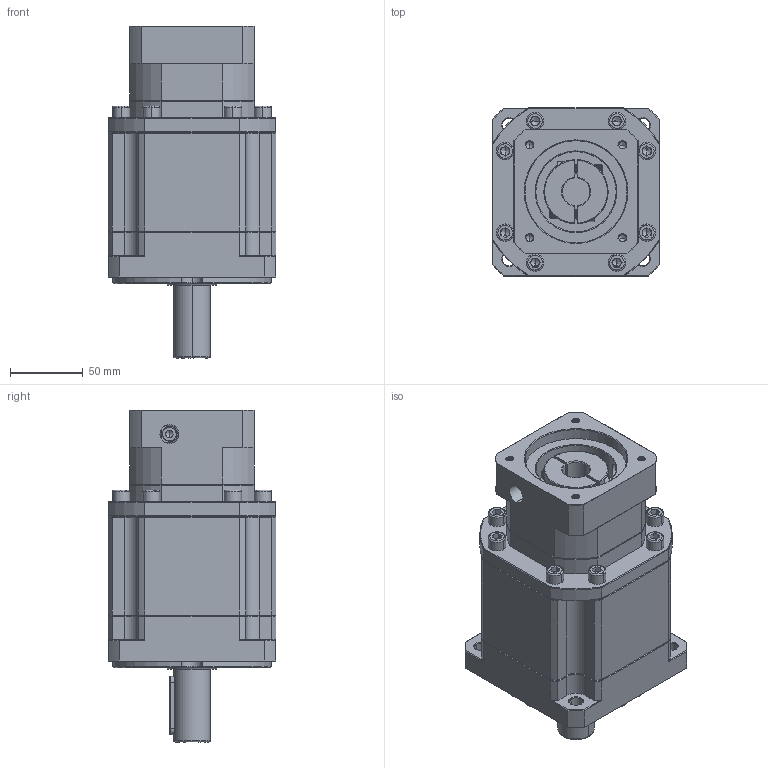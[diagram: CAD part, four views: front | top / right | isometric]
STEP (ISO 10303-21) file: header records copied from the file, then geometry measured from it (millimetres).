
FILE_DESCRIPTION (( 'STEP AP214' ), '1' );
FILE_NAME ('ZB115A-D25-L3-19-70-90-M6.step', '2023-03-03T09:53:41', ( '' ), ( 'Microsoft' ), 'SwSTEP 2.0', 'SolidWorks 2016', '' );
FILE_SCHEMA (( 'AUTOMOTIVE_DESIGN' ));
Length unit declared in the file: millimetre
Products named in the file (1): ZB115A-D25-L3-19-70-90-M6
Bounding box: 115 x 115 x 227.5 mm (x, y, z)
Volume: 1690178 mm3; surface area: 143660 mm2
Topology: 5 solids, 5 shells, 2103 faces, 5465 edges, 3456 vertices
Faces by surface type: plane 1000, cylinder 419, bspline 344, cone 340
Entity records: 111538 total; most frequent: CARTESIAN_POINT 39969, ORIENTED_EDGE 10854, DIRECTION 8800, EDGE_CURVE 5427, VERTEX_POINT 3456, LINE 3398, VECTOR 3398, AXIS2_PLACEMENT_3D 2701
